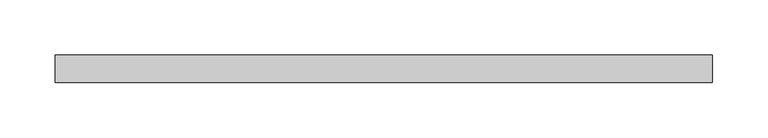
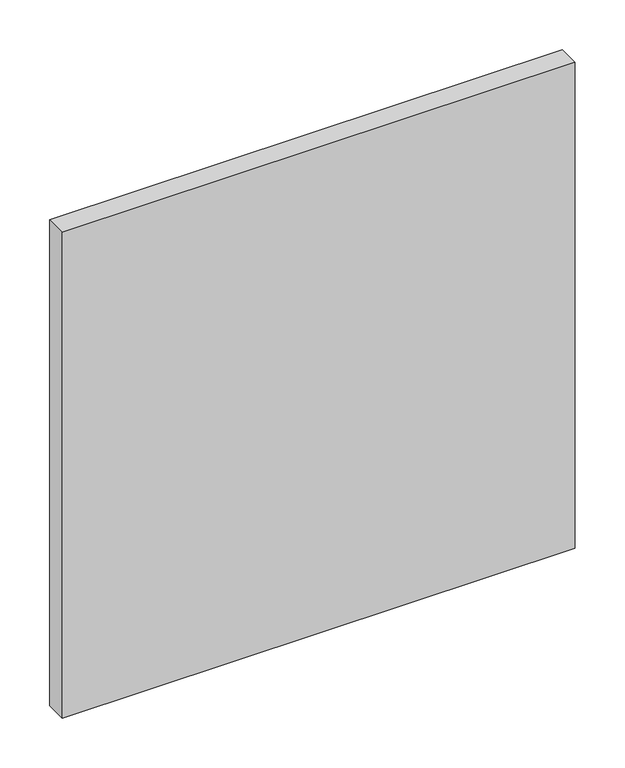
"""IFC4 building model written with IfcOpenShell, lengths in millimetres: valve geometry, Pipelife - Stormbox II - Płyta boczna ażurowa : Płyta boczna ażurowa."""

from ifc_helpers import new_model, si_unit, frame, origin, place, context, project, spatial, polyline, outline, extrude, source, transform, mapped, element, save


def valve_69fb7b47(model_context):
    return source(origin(), model_context, "Body", "SweptSolid", [
        extrude(outline(polyline([(-297.0, 0.0), (297.0, 0.0), (297.0, -25.0), (-297.0, -25.0), (-297.0, 0.0)])), frame((0.0, 0.0, -297.5), z_axis=(0.0, 0.0, 1.0), x_axis=(1.0, 0.0, 0.0)), (0.0, 0.0, 1.0), 595.0),
    ])


if __name__ == "__main__":
    model = new_model("IFC4")
    model_context = context("Model", 3, world=origin())
    ifc_project = project(units=[si_unit("LENGTHUNIT", "METRE", prefix="MILLI")], contexts=[model_context])
    site = spatial("IfcSite", under=ifc_project)
    building = spatial("IfcBuilding", under=site)
    placement = place(None, origin())
    valve_shape = valve_69fb7b47(model_context)
    element("IfcValve", 1, ObjectType="Pipelife - Stormbox II - Płyta boczna ażurowa : Płyta boczna ażurowa", at=placement, inside=building, context=model_context, shape_type="MappedRepresentation", body=[
        mapped(valve_shape, transform((0.0, 0.0, 0.0), x_axis=(1.0, 0.0, 0.0), y_axis=(0.0, 1.0, 0.0), z_axis=(0.0, 0.0, 1.0))),
    ])
    save(model, "model.ifc")
